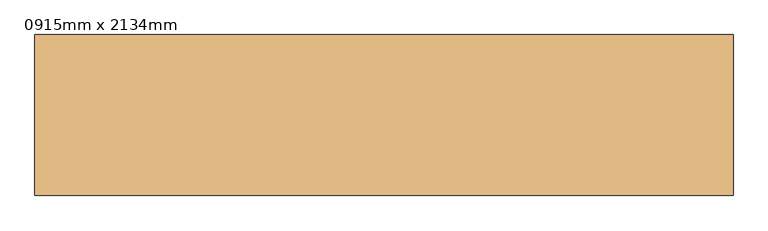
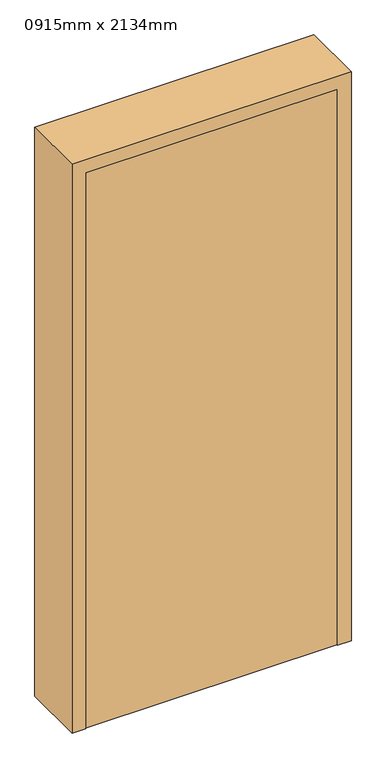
"""IFC4 building model written with IfcOpenShell, lengths in millimetres: door geometry, m-doors-hm-f1-a : 0915mm x 2134mm."""

from ifc_helpers import new_model, si_unit, frame, origin, origin_with_axes, place, context, project, spatial, polyline, outline, extrude, source, transform, mapped, element, save


def door_0915mm_x_2134mm_3fa07aa3(model_context):
    return source(origin(), model_context, "Body", "SweptSolid", [
        extrude(outline(polyline([(457.5, 105.5), (457.5, 60.5), (-457.5, 60.5), (-457.5, 105.5), (457.5, 105.5)])), origin_with_axes(), (0.0, 0.0, 1.0), 2134.0),
        extrude(outline(polyline([(0.0, -457.5), (2134.0, -457.5), (2134.0, 457.5), (0.0, 457.5), (0.0, 507.5), (2184.0, 507.5), (2184.0, -507.5), (0.0, -507.5), (0.0, -457.5)])), frame((0.0, 58.0, 0.0), z_axis=(0.0, 1.0, 0.0), x_axis=(0.0, 0.0, 1.0)), (0.0, 0.0, 1.0), 234.0),
    ])


if __name__ == "__main__":
    model = new_model("IFC4")
    model_context = context("Model", 3, world=origin())
    ifc_project = project(units=[si_unit("LENGTHUNIT", "METRE", prefix="MILLI")], contexts=[model_context])
    site = spatial("IfcSite", under=ifc_project)
    building = spatial("IfcBuilding", under=site)
    placement = place(None, origin())
    door_0915mm_x_2134mm_shape = door_0915mm_x_2134mm_3fa07aa3(model_context)
    element("IfcDoor", 1, ObjectType="m-doors-hm-f1-a : 0915mm x 2134mm", at=placement, inside=building, context=model_context, shape_type="MappedRepresentation", body=[
        mapped(door_0915mm_x_2134mm_shape, transform((0.0, 0.0, 0.0), x_axis=(1.0, 0.0, 0.0), y_axis=(0.0, 1.0, 0.0), z_axis=(0.0, 0.0, 1.0))),
    ])
    save(model, "model.ifc")
